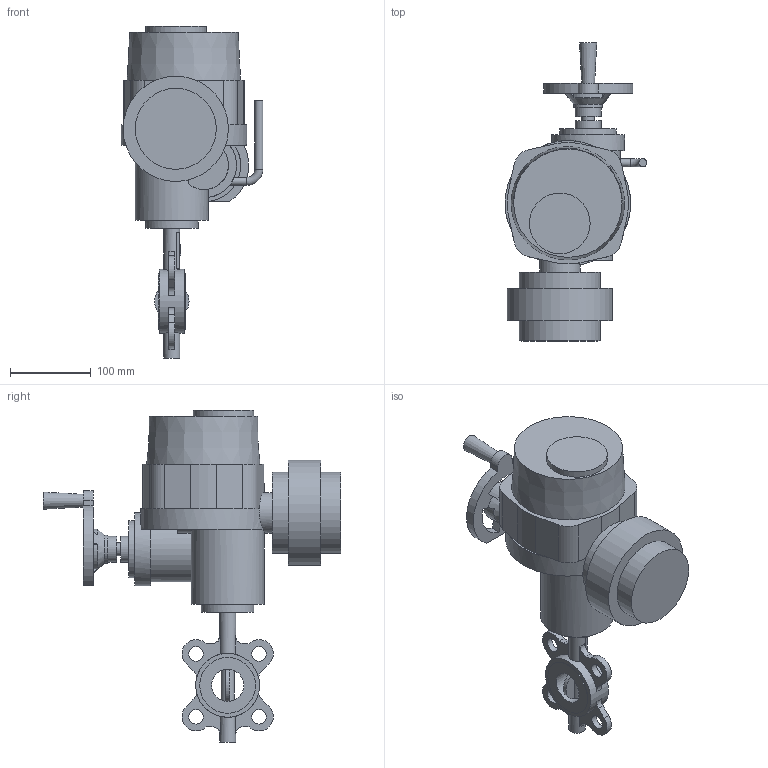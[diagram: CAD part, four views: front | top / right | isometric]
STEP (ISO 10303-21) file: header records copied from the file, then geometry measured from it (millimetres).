
FILE_DESCRIPTION(('STEP AP203'), '1');
FILE_NAME('青蜮铕 017W.YS_DN40_QT.A 005', '', ('UNSPECIFIED'), ('UNSPECIFIED'), 'ASCON STEP Converter 1.6', 'ASCON Math Kernel', '');
FILE_SCHEMA(('CONFIG_CONTROL_DESIGN'));
Length unit declared in the file: millimetre
Bounding box: 175 x 368 x 410 mm (x, y, z)
Volume: 4789698.3 mm3; surface area: 285566.1 mm2
Topology: 1 solids, 1 shells, 201 faces, 491 edges, 320 vertices
Faces by surface type: plane 111, cylinder 82, torus 5, cone 3
Full cylindrical faces by diameter (mm): 6.7 x8, 8 x4, 10 x2, 16 x1, 18 x4, 20 x2, 32 x2, 35 x1, 40 x1, 50 x1, 65 x1, 68.9 x2, 70 x1, 75 x1, 78.9 x1, 90 x2, 100 x2, 130 x1
Entity records: 9385 total; most frequent: CARTESIAN_POINT 3018, DIRECTION 1017, ORIENTED_EDGE 900, EDGE_CURVE 450, AXIS2_PLACEMENT_3D 411, VERTEX_POINT 320, EDGE_LOOP 288, FACE_BOUND 217
